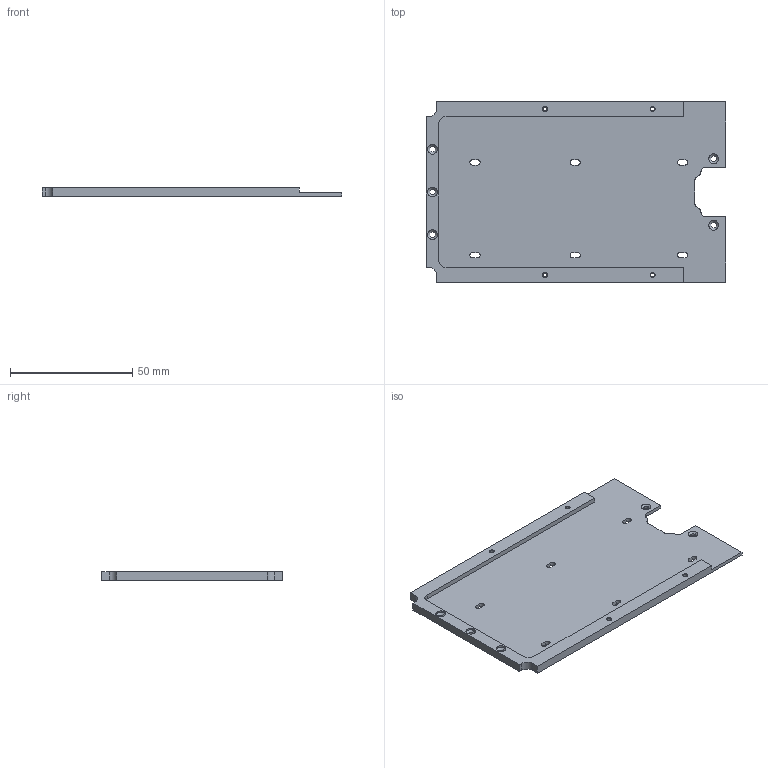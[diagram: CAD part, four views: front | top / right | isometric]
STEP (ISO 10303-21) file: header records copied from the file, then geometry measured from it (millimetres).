
FILE_DESCRIPTION (( 'STEP AP203' ), '1' );
FILE_NAME ('殑結啣3.STEP', '2026-09-24T08:52:29', ( '' ), ( '' ), 'SwSTEP 2.0', 'SolidWorks 2016', '' );
FILE_SCHEMA (( 'CONFIG_CONTROL_DESIGN' ));
Length unit declared in the file: millimetre
Products named in the file (1): 殑結啣3
Bounding box: 122.7 x 73.8 x 3.5 mm (x, y, z)
Volume: 16043.4 mm3; surface area: 19370.5 mm2
Topology: 1 solids, 1 shells, 102 faces, 276 edges, 176 vertices
Faces by surface type: cylinder 52, plane 32, cone 18
Entity records: 3361 total; most frequent: DIRECTION 598, CARTESIAN_POINT 555, ORIENTED_EDGE 552, EDGE_CURVE 276, AXIS2_PLACEMENT_3D 219, VERTEX_POINT 176, VECTOR 160, LINE 160
